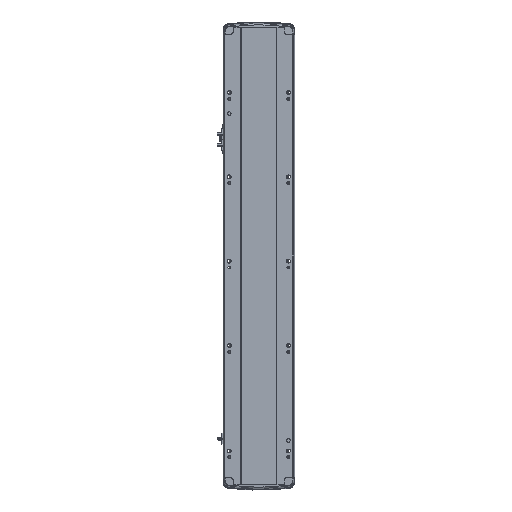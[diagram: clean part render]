
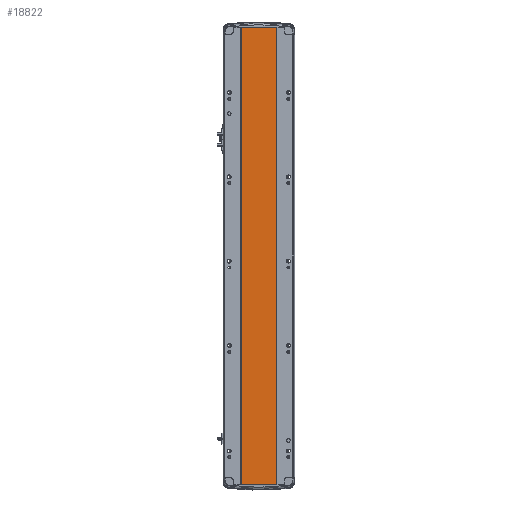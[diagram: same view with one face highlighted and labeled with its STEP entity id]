
A CAD part, front view. The second image highlights one B-rep face of the part: STEP entity #18822.
In plain terms, the highlighted planar face has unit normal (0, -1, 0).
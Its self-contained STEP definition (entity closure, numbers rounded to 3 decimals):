
#204 = AXIS2_PLACEMENT_3D ( 'NONE', #8164, #8435, #11587 ) ;
#1397 = LINE ( 'NONE', #35407, #36706 ) ;
#1801 = CARTESIAN_POINT ( 'NONE',  ( -41.791, 1., 0. ) ) ;
#4474 = LINE ( 'NONE', #9884, #5462 ) ;
#4702 = EDGE_CURVE ( 'NONE', #38226, #15370, #1397, .T. ) ;
#5462 = VECTOR ( 'NONE', #9621, 1000. ) ;
#6016 = CARTESIAN_POINT ( 'NONE',  ( 41.793, 0.998, 1084.5 ) ) ;
#6596 = VERTEX_POINT ( 'NONE', #30634 ) ;
#7150 = DIRECTION ( 'NONE',  ( 0., 0., -1. ) ) ;
#7777 = ORIENTED_EDGE ( 'NONE', *, *, #35629, .F. ) ;
#8164 = CARTESIAN_POINT ( 'NONE',  ( 0., 0.999, 1084.5 ) ) ;
#8435 = DIRECTION ( 'NONE',  ( 0., 1., 0. ) ) ;
#9036 = DIRECTION ( 'NONE',  ( 0., 0., -1. ) ) ;
#9621 = DIRECTION ( 'NONE',  ( 1., 0., 0. ) ) ;
#9884 = CARTESIAN_POINT ( 'NONE',  ( 0., 0.999, 0. ) ) ;
#10544 = FACE_OUTER_BOUND ( 'NONE', #22009, .T. ) ;
#11309 = PLANE ( 'NONE',  #204 ) ;
#11446 = CARTESIAN_POINT ( 'NONE',  ( -41.791, 1., 1084.5 ) ) ;
#11587 = DIRECTION ( 'NONE',  ( -1., 0., 0. ) ) ;
#11811 = DIRECTION ( 'NONE',  ( 1., 0., 0. ) ) ;
#14608 = VECTOR ( 'NONE', #9036, 1000. ) ;
#15370 = VERTEX_POINT ( 'NONE', #1801 ) ;
#17725 = VERTEX_POINT ( 'NONE', #21719 ) ;
#18457 = ORIENTED_EDGE ( 'NONE', *, *, #29386, .F. ) ;
#18822 = ADVANCED_FACE ( 'NONE', ( #10544 ), #11309, .F. ) ;
#19822 = ORIENTED_EDGE ( 'NONE', *, *, #33734, .T. ) ;
#20504 = LINE ( 'NONE', #6016, #14608 ) ;
#21362 = VECTOR ( 'NONE', #11811, 1000. ) ;
#21719 = CARTESIAN_POINT ( 'NONE',  ( 41.793, 0.998, 1084.5 ) ) ;
#22009 = EDGE_LOOP ( 'NONE', ( #19822, #7777, #18457, #24562 ) ) ;
#24562 = ORIENTED_EDGE ( 'NONE', *, *, #4702, .T. ) ;
#29386 = EDGE_CURVE ( 'NONE', #38226, #17725, #36614, .T. ) ;
#30634 = CARTESIAN_POINT ( 'NONE',  ( 41.793, 0.998, 0. ) ) ;
#33622 = CARTESIAN_POINT ( 'NONE',  ( 0., 0.999, 1084.5 ) ) ;
#33734 = EDGE_CURVE ( 'NONE', #15370, #6596, #4474, .T. ) ;
#35407 = CARTESIAN_POINT ( 'NONE',  ( -41.791, 1., 1084.5 ) ) ;
#35629 = EDGE_CURVE ( 'NONE', #17725, #6596, #20504, .T. ) ;
#36614 = LINE ( 'NONE', #33622, #21362 ) ;
#36706 = VECTOR ( 'NONE', #7150, 1000. ) ;
#38226 = VERTEX_POINT ( 'NONE', #11446 ) ;
